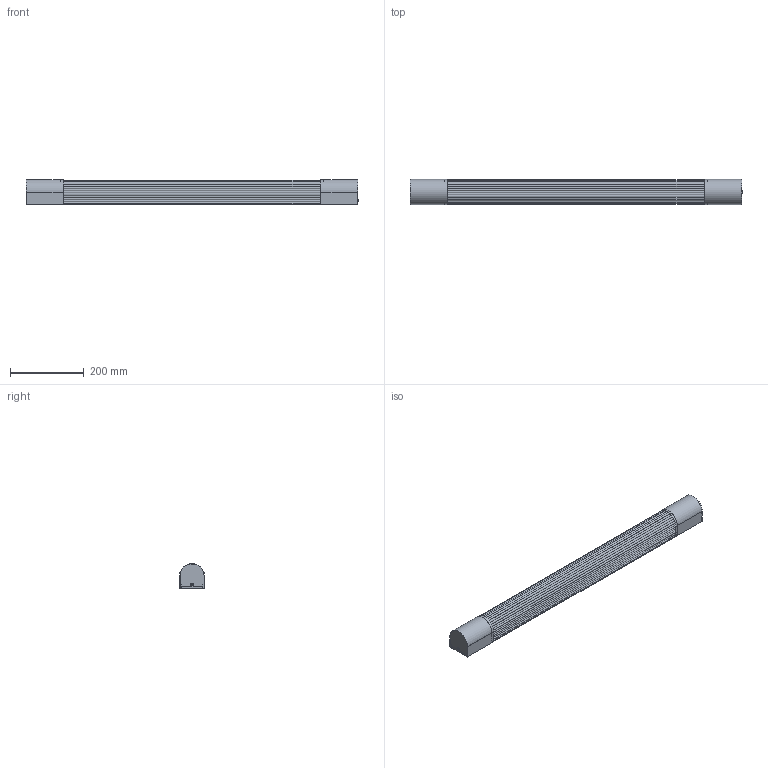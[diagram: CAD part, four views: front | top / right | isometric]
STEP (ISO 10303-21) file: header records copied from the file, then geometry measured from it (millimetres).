
FILE_DESCRIPTION(/* description */ (''),/* implementation_level */ '2;1');
FILE_NAME(/* name */ '62834.step',/* time_stamp */ '2024-10-15T09:20:07+02:00',/* author */ ('RenataManzini'),/* organization */ (''),/* preprocessor_version */ 'ST-DEVELOPER v20',/* originating_system */ 'AutoCAD Mechanical',/* authorisation */ '');
FILE_SCHEMA (('AUTOMOTIVE_DESIGN { 1 0 10303 214 3 1 1 }'));
Length unit declared in the file: millimetre
Products named in the file (2): Product; Kiva_900 - Lamp Holder-709697-_3D_
Assembly tree (1 placements, depth 2):
  Product
    Kiva_900 - Lamp Holder-709697-_3D_
Bounding box: 900.08 x 68 x 67.2 mm (x, y, z)
Volume: 559124.6 mm3; surface area: 533324.7 mm2
Topology: 8 solids, 8 shells, 152 faces, 399 edges, 265 vertices
Faces by surface type: plane 72, cylinder 64, cone 8, torus 8
Entity records: 5034 total; most frequent: CARTESIAN_POINT 1066, DIRECTION 830, ORIENTED_EDGE 792, EDGE_CURVE 396, AXIS2_PLACEMENT_3D 298, VERTEX_POINT 260, LINE 234, VECTOR 234
